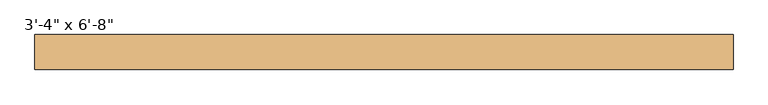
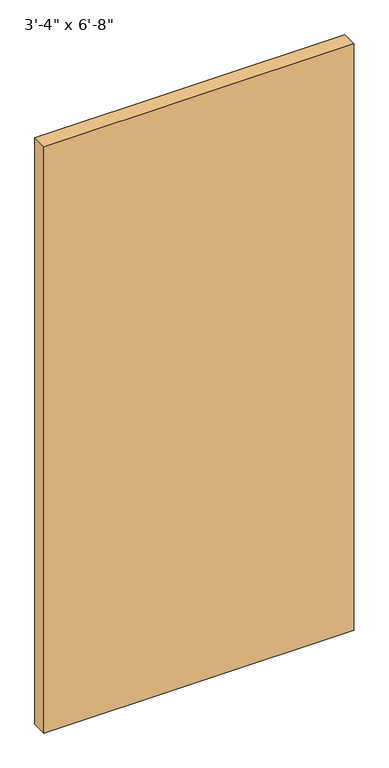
"""IFC4 building model written with IfcOpenShell, lengths in millimetres: door geometry."""

from ifc_helpers import new_model, si_unit, origin, origin_with_axes, place, context, project, spatial, polyline, outline, extrude, source, transform, mapped, element, save


def door_386d591b(model_context):
    return source(origin(), model_context, "Body", "SweptSolid", [
        extrude(outline(polyline([(508.0, -6.1515625), (508.0, -57.15), (-508.0, -57.15), (-508.0, -6.1515625), (508.0, -6.1515625)])), origin_with_axes(), (0.0, 0.0, 1.0), 2032.0),
    ])


if __name__ == "__main__":
    model = new_model("IFC4")
    model_context = context("Model", 3, world=origin())
    ifc_project = project(units=[si_unit("LENGTHUNIT", "METRE", prefix="MILLI")], contexts=[model_context])
    site = spatial("IfcSite", under=ifc_project)
    building = spatial("IfcBuilding", under=site)
    placement = place(None, origin())
    door_shape = door_386d591b(model_context)
    element("IfcDoor", 1, ObjectType="Planitar - Single Door_Flush Panel : 3'-4\" x 6'-8\"", at=placement, inside=building, context=model_context, shape_type="MappedRepresentation", body=[
        mapped(door_shape, transform((0.0, 0.0, 0.0), x_axis=(1.0, 0.0, 0.0), y_axis=(0.0, 1.0, 0.0), z_axis=(0.0, 0.0, 1.0))),
    ])
    save(model, "model.ifc")
